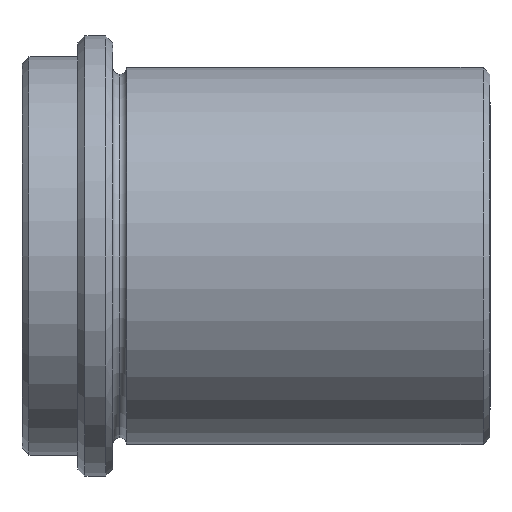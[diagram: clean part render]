
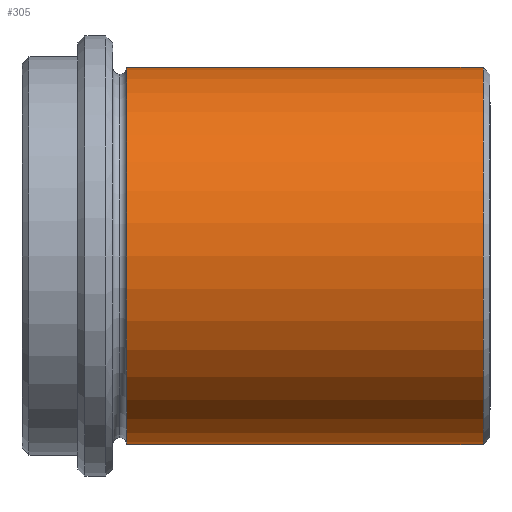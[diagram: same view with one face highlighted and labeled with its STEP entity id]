
A CAD part, left-side view. The second image highlights one B-rep face of the part: STEP entity #305.
In plain terms, the highlighted cylindrical face has radius 27 mm (diameter 54 mm), a partial arc.
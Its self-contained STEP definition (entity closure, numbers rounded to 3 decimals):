
#61=CARTESIAN_POINT('Vertex',(0.,1.,27.)) ;
#84=CARTESIAN_POINT('Vertex',(0.,1.,-27.)) ;
#125=CARTESIAN_POINT('Axis2P3D Location',(0.,1.,0.)) ;
#129=CARTESIAN_POINT('Vertex',(-27.,1.,0.)) ;
#132=CARTESIAN_POINT('Axis2P3D Location',(0.,1.,0.)) ;
#245=CARTESIAN_POINT('Line Origine',(0.,0.,-27.)) ;
#249=CARTESIAN_POINT('Vertex',(0.,52.,-27.)) ;
#263=CARTESIAN_POINT('Vertex',(0.,52.,27.)) ;
#266=CARTESIAN_POINT('Line Origine',(0.,0.,27.)) ;
#280=CARTESIAN_POINT('Axis2P3D Location',(0.,0.,0.)) ;
#285=CARTESIAN_POINT('Axis2P3D Location',(0.,52.,0.)) ;
#289=CARTESIAN_POINT('Vertex',(-27.,52.,0.)) ;
#292=CARTESIAN_POINT('Axis2P3D Location',(0.,52.,0.)) ;
#126=DIRECTION('Axis2P3D Direction',(-0.,1.,0.)) ;
#133=DIRECTION('Axis2P3D Direction',(-0.,1.,0.)) ;
#246=DIRECTION('Vector Direction',(0.,1.,0.)) ;
#267=DIRECTION('Vector Direction',(0.,1.,0.)) ;
#281=DIRECTION('Axis2P3D Direction',(0.,1.,0.)) ;
#282=DIRECTION('Axis2P3D XDirection',(0.,0.,-1.)) ;
#286=DIRECTION('Axis2P3D Direction',(0.,1.,0.)) ;
#293=DIRECTION('Axis2P3D Direction',(0.,1.,0.)) ;
#127=AXIS2_PLACEMENT_3D('Circle Axis2P3D',#125,#126,$) ;
#134=AXIS2_PLACEMENT_3D('Circle Axis2P3D',#132,#133,$) ;
#283=AXIS2_PLACEMENT_3D('Cylinder Axis2P3D',#280,#281,#282) ;
#287=AXIS2_PLACEMENT_3D('Circle Axis2P3D',#285,#286,$) ;
#294=AXIS2_PLACEMENT_3D('Circle Axis2P3D',#292,#293,$) ;
#298=ORIENTED_EDGE('',*,*,#270,.T.) ;
#299=ORIENTED_EDGE('',*,*,#291,.T.) ;
#300=ORIENTED_EDGE('',*,*,#296,.T.) ;
#301=ORIENTED_EDGE('',*,*,#251,.T.) ;
#302=ORIENTED_EDGE('',*,*,#136,.F.) ;
#303=ORIENTED_EDGE('',*,*,#131,.F.) ;
#247=VECTOR('Line Direction',#246,1.) ;
#268=VECTOR('Line Direction',#267,1.) ;
#305=ADVANCED_FACE('CF 439 42x67',(#304),#284,.T.) ;
#128=CIRCLE('generated circle',#127,27.) ;
#135=CIRCLE('generated circle',#134,27.) ;
#288=CIRCLE('generated circle',#287,27.) ;
#295=CIRCLE('generated circle',#294,27.) ;
#284=CYLINDRICAL_SURFACE('generated cylinder',#283,27.) ;
#131=EDGE_CURVE('',#62,#130,#128,.F.) ;
#136=EDGE_CURVE('',#130,#85,#135,.F.) ;
#251=EDGE_CURVE('',#250,#85,#248,.F.) ;
#270=EDGE_CURVE('',#62,#264,#269,.T.) ;
#291=EDGE_CURVE('',#264,#290,#288,.F.) ;
#296=EDGE_CURVE('',#290,#250,#295,.F.) ;
#297=EDGE_LOOP('',(#298,#299,#300,#301,#302,#303)) ;
#304=FACE_OUTER_BOUND('',#297,.T.) ;
#248=LINE('Line',#245,#247) ;
#269=LINE('Line',#266,#268) ;
#62=VERTEX_POINT('',#61) ;
#85=VERTEX_POINT('',#84) ;
#130=VERTEX_POINT('',#129) ;
#250=VERTEX_POINT('',#249) ;
#264=VERTEX_POINT('',#263) ;
#290=VERTEX_POINT('',#289) ;
